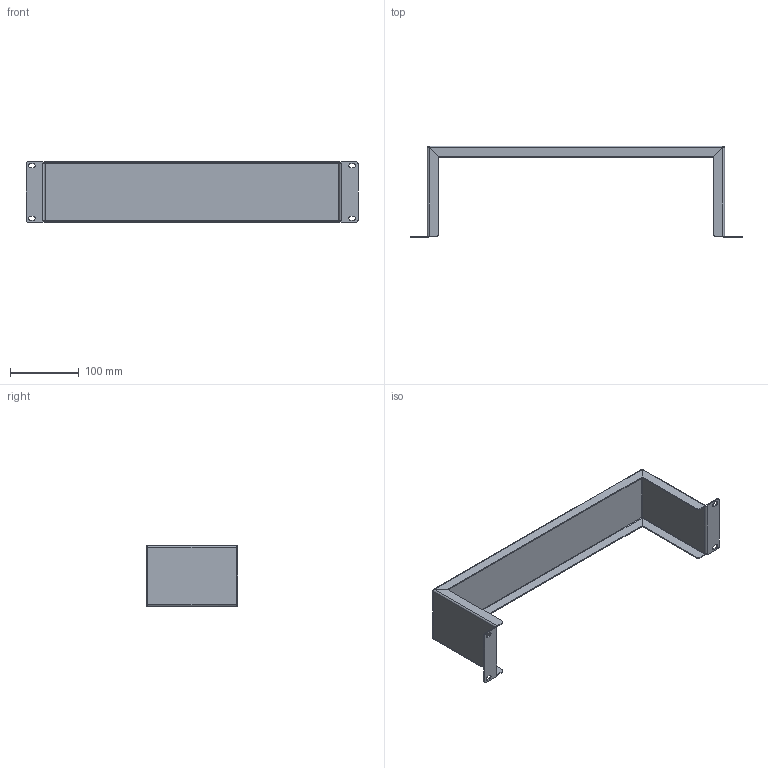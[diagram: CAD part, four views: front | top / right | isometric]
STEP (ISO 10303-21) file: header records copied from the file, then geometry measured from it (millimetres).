
FILE_DESCRIPTION(/* description */ ('Unknown'),/* implementation_level */ '2;1');
FILE_NAME(/* name */ '7-350D',/* time_stamp */ '2022-07-22T11:34:20-04:00',/* author */ ('Unknown'),/* organization */ ('Unknown'),/* preprocessor_version */ 'ST-DEVELOPER v18.1',/* originating_system */ 'Solid Edge',/* authorisation */ 'Unknown');
FILE_SCHEMA (('AUTOMOTIVE_DESIGN {1 0 10303 214 3 1 1}'));
Length unit declared in the file: millimetre
Products named in the file (1): 7-350D
Bounding box: 482.6 x 133.35 x 88.09 mm (x, y, z)
Volume: 135029.1 mm3; surface area: 169195.6 mm2
Topology: 1 solids, 1 shells, 122 faces, 280 edges, 160 vertices
Faces by surface type: plane 74, cylinder 36, bspline 8, cone 4
Entity records: 3698 total; most frequent: CARTESIAN_POINT 967, ORIENTED_EDGE 552, DIRECTION 538, EDGE_CURVE 276, LINE 196, VECTOR 196, AXIS2_PLACEMENT_3D 171, VERTEX_POINT 160
